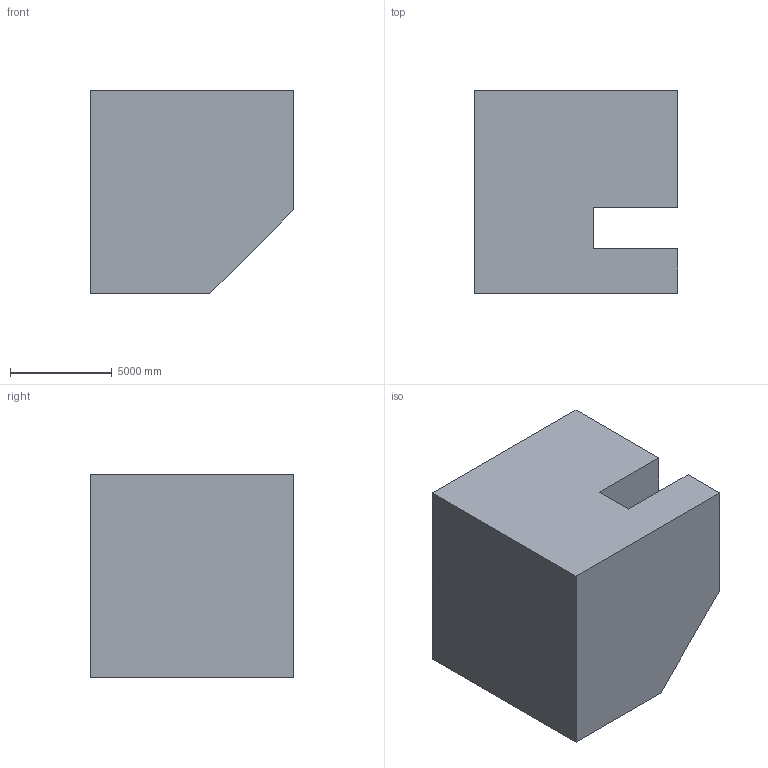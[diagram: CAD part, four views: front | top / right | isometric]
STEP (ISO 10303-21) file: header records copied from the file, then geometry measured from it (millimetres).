
FILE_DESCRIPTION (( 'STEP AP203' ), '1' );
FILE_NAME ('1198.STEP', '2022-08-18T13:08:48', ( 'user' ), ( '' ), 'SwSTEP 2.0', 'SolidWorks 2021', '' );
FILE_SCHEMA (( 'CONFIG_CONTROL_DESIGN' ));
Length unit declared in the file: centimetre
Products named in the file (1): 1198
Bounding box: 10000 x 10000 x 10000 mm (x, y, z)
Volume: 848422116552 mm3; surface area: 612823883.7 mm2
Topology: 1 solids, 1 shells, 12 faces, 30 edges, 20 vertices
Faces by surface type: plane 12
Entity records: 431 total; most frequent: CARTESIAN_POINT 63, ORIENTED_EDGE 60, DIRECTION 56, EDGE_CURVE 30, VECTOR 30, LINE 30, VERTEX_POINT 20, AXIS2_PLACEMENT_3D 13
